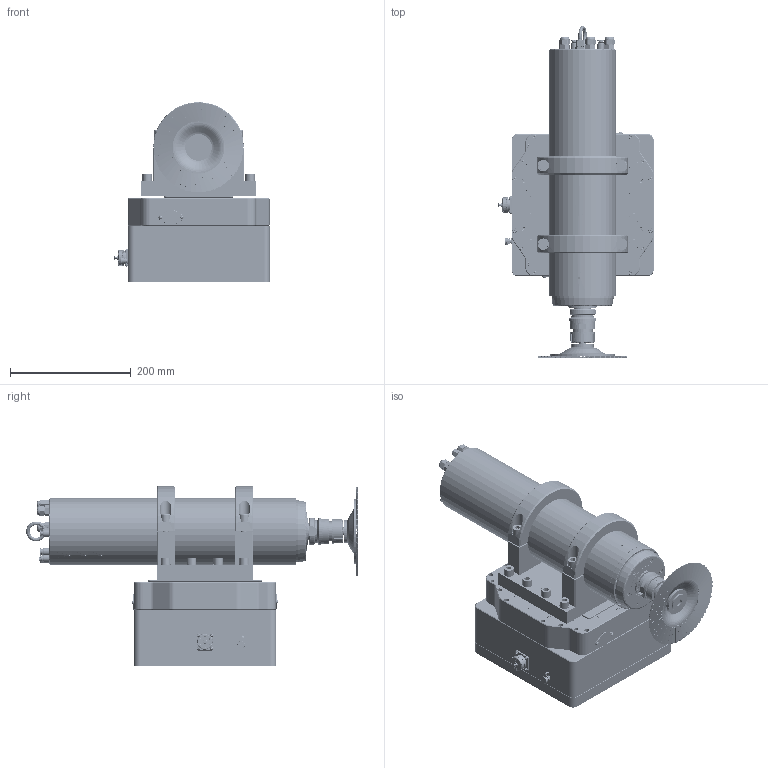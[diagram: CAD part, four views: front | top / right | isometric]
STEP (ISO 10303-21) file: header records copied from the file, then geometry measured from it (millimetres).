
FILE_DESCRIPTION (( 'STEP AP214' ), '1' );
FILE_NAME ('1¡¢5.5KWµç¶¯ÖáÓëÒ»Î¬1300N¸¡¶¯Ä£¿é£', '2025-09-30T01:40:27', ( 'selfweld_user' ), ( '' ), 'SwSTEP 2.0', 'SolidWorks 2022', '' );
FILE_SCHEMA (( 'AUTOMOTIVE_DESIGN' ));
Length unit declared in the file: millimetre
Products named in the file (13): 5.5KWㄗHYC110-8Z-5.5ㄘ萇雄粣__‘_芍___ㄓ_“⊿; GB／T70．1-2000内六角圆柱头螺钉M10×25_Y_¤M10_á25_Y__èM10_¨￠25; 5.5K蟀諉錨璃2__t2__t2; ﾖｱｾｶ5mm-20mmﾏ伹_ｨｲm_｡ｧ2; 6ｴ邁ﾙﾒｶﾆｬｨｰ___｡ｧ｡綫__; GB／T70．1-2000内六角圆柱头螺钉M10×40_Y_¤M10_á40_Y__èM10_¨￠40; 5.5蟀諉錨璃3__t3__t3; 5.5蟀諉錨璃1__t1__t1; BT30絮梟摯嶺絮隊炡絮_1_∟_3米__1__豕_3|足__1; GB／T859-1987轻型弹簧垫圈(装配)10×2×°__)10_á2_á____)10_¨￠2; GB／T70．1-2000内六角圆柱头螺钉M8×20·_Y_¤M8_á20_¤_Y__èM8_¨￠20; 1、5.5KW电动轴与一维1300N浮动模块（竖装）装配体_￡_é￡¨êú×°￡_×°__ì___ê_¨|_ê_§¨o¨2_á___ê__á____¨__; ECM1A-1000-004-000ｸ｡ｶｯﾄ｣ｿ鬟ｨｸ｡ｶｯｾﾓﾖﾐﾎｻ｣ｩ__｡･_ｨｮ_D__｡鸚___｣､_｡ｧ__D___ｨｺ_
Assembly tree (43 placements, depth 2):
  1、5.5KW电动轴与一维1300N浮动模块（竖装）装配体_￡_é￡¨êú×°￡_×°__ì___ê_¨|_ê_§¨o¨2_á___ê__á____¨__
    5.5KWㄗHYC110-8Z-5.5ㄘ萇雄粣__‘_芍___ㄓ_“⊿
    5.5K蟀諉錨璃2__t2__t2  x2
    5.5蟀諉錨璃1__t1__t1
    5.5蟀諉錨璃3__t3__t3
    GB／T70．1-2000内六角圆柱头螺钉M10×40_Y_¤M10_á40_Y__èM10_¨￠40  x4
    ﾖｱｾｶ5mm-20mmﾏ伹_ｨｲm_｡ｧ2  x2
    GB／T70．1-2000内六角圆柱头螺钉M8×20·_Y_¤M8_á20_¤_Y__èM8_¨￠20  x6
    GB／T859-1987轻型弹簧垫圈(装配)10×2×°__)10_á2_á____)10_¨￠2  x15
    GB／T70．1-2000内六角圆柱头螺钉M10×25_Y_¤M10_á25_Y__èM10_¨￠25  x8
    ECM1A-1000-004-000ｸ｡ｶｯﾄ｣ｿ鬟ｨｸ｡ｶｯｾﾓﾖﾐﾎｻ｣ｩ__｡･_ｨｮ_D__｡鸚___｣､_｡ｧ__D___ｨｺ_
    BT30絮梟摯嶺絮隊炡絮_1_∟_3米__1__豕_3|足__1
    6ｴ邁ﾙﾒｶﾆｬｨｰ___｡ｧ｡綫__
Bounding box: 256.9 x 549.05 x 297.5 mm (x, y, z)
Volume: 1347336.9 mm3; surface area: 1357515.4 mm2
Topology: 90 solids, 246 shells, 7822 faces, 18605 edges, 11483 vertices
Faces by surface type: plane 3742, cylinder 2181, cone 1184, torus 429, bspline 260, sphere 26
Entity records: 260796 total; most frequent: CARTESIAN_POINT 70631, DIRECTION 35948, ORIENTED_EDGE 33730, EDGE_CURVE 17123, AXIS2_PLACEMENT_3D 13140, VERTEX_POINT 10778, VECTOR 9668, LINE 9668
